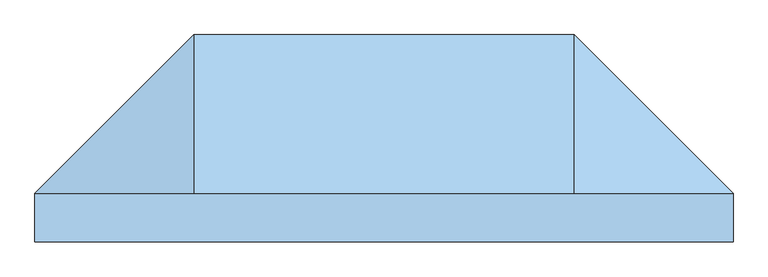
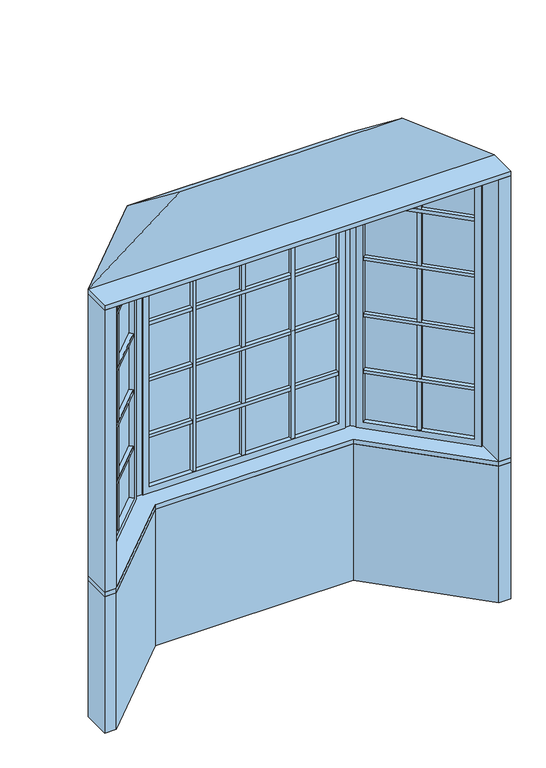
"""IFC4 building model written with IfcOpenShell, lengths in millimetres: window geometry, Pollard_Windows_Tudor Casement Bows and Bays : AML-BAY 45 AFR0516-12-600_GC."""

from ifc_helpers import new_model, si_unit, frame, origin, origin_with_axes, place, context, project, spatial, polyline, outline, extrude, faceted_brep, source, transform, mapped, element, save


def window_9950a577(model_context):
    return source(origin(), model_context, "Body", "SolidModel", [
        extrude(outline(polyline([(653.0114193, 506.9608753), (1030.6725202, 129.2997743), (1015.116171, 113.7434252), (637.4550701, 491.4045261), (653.0114193, 506.9608753)])), frame((0.0, 0.0, 1110.998), z_axis=(0.0, 0.0, 1.0), x_axis=(1.0, 0.0, 0.0)), (0.0, 0.0, 1.0), 18.0),
        extrude(outline(polyline([(633.8629677, 487.8124236), (1011.5240686, 110.1513227), (995.9677194, 94.5949735), (618.3066185, 472.2560744), (633.8629677, 487.8124236)])), frame((0.0, 0.0, 1110.998), z_axis=(0.0, 0.0, 1.0), x_axis=(1.0, 0.0, 0.0)), (0.0, 0.0, 1.0), 18.0),
        extrude(outline(polyline([(653.0114193, 506.9608753), (1030.6725202, 129.2997743), (1015.116171, 113.7434252), (637.4550701, 491.4045261), (653.0114193, 506.9608753)])), frame((0.0, 0.0, 1430.998), z_axis=(0.0, 0.0, 1.0), x_axis=(1.0, 0.0, 0.0)), (0.0, 0.0, 1.0), 18.0),
        extrude(outline(polyline([(633.8629677, 487.8124236), (1011.5240686, 110.1513227), (995.9677194, 94.5949735), (618.3066185, 472.2560744), (633.8629677, 487.8124236)])), frame((0.0, 0.0, 1430.998), z_axis=(0.0, 0.0, 1.0), x_axis=(1.0, 0.0, 0.0)), (0.0, 0.0, 1.0), 18.0),
        extrude(outline(polyline([(653.0114193, 506.9608753), (1030.6725202, 129.2997743), (1015.116171, 113.7434252), (637.4550701, 491.4045261), (653.0114193, 506.9608753)])), frame((0.0, 0.0, 1750.998), z_axis=(0.0, 0.0, 1.0), x_axis=(1.0, 0.0, 0.0)), (0.0, 0.0, 1.0), 18.0),
        extrude(outline(polyline([(633.8629677, 487.8124236), (1011.5240686, 110.1513227), (995.9677194, 94.5949735), (618.3066185, 472.2560744), (633.8629677, 487.8124236)])), frame((0.0, 0.0, 1750.998), z_axis=(0.0, 0.0, 1.0), x_axis=(1.0, 0.0, 0.0)), (0.0, 0.0, 1.0), 18.0),
        extrude(outline(polyline([(653.0114193, 506.9608753), (1030.6725202, 129.2997743), (1015.116171, 113.7434252), (637.4550701, 491.4045261), (653.0114193, 506.9608753)])), frame((0.0, 0.0, 2070.998), z_axis=(0.0, 0.0, 1.0), x_axis=(1.0, 0.0, 0.0)), (0.0, 0.0, 1.0), 18.0),
        extrude(outline(polyline([(633.8629677, 487.8124236), (1011.5240686, 110.1513227), (995.9677194, 94.5949735), (618.3066185, 472.2560744), (633.8629677, 487.8124236)])), frame((0.0, 0.0, 2070.998), z_axis=(0.0, 0.0, 1.0), x_axis=(1.0, 0.0, 0.0)), (0.0, 0.0, 1.0), 18.0),
        extrude(outline(polyline([(832.6495816, 296.2100146), (819.9216595, 308.9379366), (835.4780087, 324.4942858), (848.2059308, 311.7663638), (832.6495816, 296.2100146)])), frame((0.0, 0.0, 835.8628), z_axis=(0.0, 0.0, 1.0), x_axis=(1.0, 0.0, 0.0)), (0.0, 0.0, 1.0), 1528.2704),
        extrude(outline(polyline([(829.0574791, 292.6179121), (813.50113, 277.0615629), (800.7732079, 289.789485), (816.3295571, 305.3458342), (829.0574791, 292.6179121)])), frame((0.0, 0.0, 835.8628), z_axis=(0.0, 0.0, 1.0), x_axis=(1.0, 0.0, 0.0)), (0.0, 0.0, 1.0), 1528.2704),
        extrude(outline(polyline([(1024.0964271, 104.763169), (1020.5043247, 101.1710666), (624.8827115, 496.7926797), (628.474814, 500.3847822), (1024.0964271, 104.763169)])), frame((0.0, 0.0, 823.1628), z_axis=(0.0, 0.0, 1.0), x_axis=(1.0, 0.0, 0.0)), (0.0, 0.0, 1.0), 1553.6704),
        faceted_brep([(1015.116171, 113.7434252, 835.8628), (1015.116171, 113.7434252, 2364.1332), (1033.0766833, 131.7039374, 2364.1332), (1033.0766833, 131.7039374, 835.8628), (1020.5043247, 101.1710666, 823.1628), (1020.5043247, 101.1710666, 2376.8332), (1024.0964271, 104.763169, 2376.8332), (1024.0964271, 104.763169, 823.1628), (993.5635563, 92.1908105, 835.8628), (993.5635563, 92.1908105, 2364.1332), (1011.5240686, 110.1513227, 2364.1332), (1011.5240686, 110.1513227, 835.8628), (1058.4369265, 106.3436941, 799.998), (1058.4369265, 106.3436941, 2399.998), (1018.9237996, 66.8305672, 2399.998), (1018.9237996, 66.8305672, 799.998), (637.4550701, 491.4045261, 2364.1332), (655.4155823, 509.3650383, 2364.1332), (624.8827115, 496.7926797, 2376.8332), (628.474814, 500.3847822, 2376.8332), (615.9024554, 469.8519114, 2364.1332), (633.8629677, 487.8124236, 2364.1332), (630.0553391, 534.7252816, 2399.998), (590.5422121, 495.2121547, 2399.998), (637.4550701, 491.4045261, 835.8628), (655.4155823, 509.3650383, 835.8628), (624.8827115, 496.7926797, 823.1628), (628.474814, 500.3847822, 823.1628), (615.9024554, 469.8519114, 835.8628), (633.8629677, 487.8124236, 835.8628), (630.0553391, 534.7252816, 799.998), (590.5422121, 495.2121547, 799.998)], [[[0, 1, 2, 3]], [[4, 5, 6, 7]], [[8, 9, 10, 11]], [[12, 13, 14, 15]], [[1, 16, 17, 2]], [[5, 18, 19, 6]], [[9, 20, 21, 10]], [[13, 22, 23, 14]], [[16, 24, 25, 17]], [[18, 26, 27, 19]], [[20, 28, 29, 21]], [[22, 30, 31, 23]], [[24, 0, 3, 25]], [[7, 6, 19, 27], [1, 0, 24, 16]], [[26, 4, 7, 27]], [[5, 4, 26, 18], [11, 10, 21, 29]], [[28, 8, 11, 29]], [[15, 14, 23, 31], [9, 8, 28, 20]], [[30, 12, 15, 31]], [[13, 12, 30, 22], [3, 2, 17, 25]]]),
        extrude(outline(polyline([(274.2677, 544.6806207), (256.2677, 544.6806207), (256.2677, 566.6806207), (274.2677, 566.6806207), (274.2677, 544.6806207)])), frame((0.0, 0.0, 835.8628), z_axis=(0.0, 0.0, 1.0), x_axis=(1.0, 0.0, 0.0)), (0.0, 0.0, 1.0), 1528.2704),
        extrude(outline(polyline([(274.2677, 539.6006207), (274.2677, 517.6006207), (256.2677, 517.6006207), (256.2677, 539.6006207), (274.2677, 539.6006207)])), frame((0.0, 0.0, 835.8628), z_axis=(0.0, 0.0, 1.0), x_axis=(1.0, 0.0, 0.0)), (0.0, 0.0, 1.0), 1528.2704),
        extrude(outline(polyline([(-256.2677, 544.6806207), (-274.2677, 544.6806207), (-274.2677, 566.6806207), (-256.2677, 566.6806207), (-256.2677, 544.6806207)])), frame((0.0, 0.0, 835.8628), z_axis=(0.0, 0.0, 1.0), x_axis=(1.0, 0.0, 0.0)), (0.0, 0.0, 1.0), 1528.2704),
        extrude(outline(polyline([(-256.2677, 539.6006207), (-256.2677, 517.6006207), (-274.2677, 517.6006207), (-274.2677, 539.6006207), (-256.2677, 539.6006207)])), frame((0.0, 0.0, 835.8628), z_axis=(0.0, 0.0, 1.0), x_axis=(1.0, 0.0, 0.0)), (0.0, 0.0, 1.0), 1528.2704),
        extrude(outline(polyline([(-508.8352, 566.6806207), (508.8352, 566.6806207), (508.8352, 544.6806207), (-508.8352, 544.6806207), (-508.8352, 566.6806207)])), frame((0.0, 0.0, 1110.998), z_axis=(0.0, 0.0, 1.0), x_axis=(1.0, 0.0, 0.0)), (0.0, 0.0, 1.0), 18.0),
        extrude(outline(polyline([(-508.8352, 539.6006207), (508.8352, 539.6006207), (508.8352, 517.6006207), (-508.8352, 517.6006207), (-508.8352, 539.6006207)])), frame((0.0, 0.0, 1110.998), z_axis=(0.0, 0.0, 1.0), x_axis=(1.0, 0.0, 0.0)), (0.0, 0.0, 1.0), 18.0),
        extrude(outline(polyline([(-508.8352, 566.6806207), (508.8352, 566.6806207), (508.8352, 544.6806207), (-508.8352, 544.6806207), (-508.8352, 566.6806207)])), frame((0.0, 0.0, 1430.998), z_axis=(0.0, 0.0, 1.0), x_axis=(1.0, 0.0, 0.0)), (0.0, 0.0, 1.0), 18.0),
        extrude(outline(polyline([(-508.8352, 539.6006207), (508.8352, 539.6006207), (508.8352, 517.6006207), (-508.8352, 517.6006207), (-508.8352, 539.6006207)])), frame((0.0, 0.0, 1430.998), z_axis=(0.0, 0.0, 1.0), x_axis=(1.0, 0.0, 0.0)), (0.0, 0.0, 1.0), 18.0),
        extrude(outline(polyline([(-508.8352, 566.6806207), (508.8352, 566.6806207), (508.8352, 544.6806207), (-508.8352, 544.6806207), (-508.8352, 566.6806207)])), frame((0.0, 0.0, 1750.998), z_axis=(0.0, 0.0, 1.0), x_axis=(1.0, 0.0, 0.0)), (0.0, 0.0, 1.0), 18.0),
        extrude(outline(polyline([(-508.8352, 539.6006207), (508.8352, 539.6006207), (508.8352, 517.6006207), (-508.8352, 517.6006207), (-508.8352, 539.6006207)])), frame((0.0, 0.0, 1750.998), z_axis=(0.0, 0.0, 1.0), x_axis=(1.0, 0.0, 0.0)), (0.0, 0.0, 1.0), 18.0),
        extrude(outline(polyline([(-1030.6725202, 129.2997743), (-653.0114193, 506.9608753), (-637.4550701, 491.4045261), (-1015.116171, 113.7434252), (-1030.6725202, 129.2997743)])), frame((0.0, 0.0, 1110.998), z_axis=(0.0, 0.0, 1.0), x_axis=(1.0, 0.0, 0.0)), (0.0, 0.0, 1.0), 18.0),
        extrude(outline(polyline([(-1011.5240686, 110.1513227), (-633.8629677, 487.8124236), (-618.3066185, 472.2560744), (-995.9677194, 94.5949735), (-1011.5240686, 110.1513227)])), frame((0.0, 0.0, 1110.998), z_axis=(0.0, 0.0, 1.0), x_axis=(1.0, 0.0, 0.0)), (0.0, 0.0, 1.0), 18.0),
        extrude(outline(polyline([(-1030.6725202, 129.2997743), (-653.0114193, 506.9608753), (-637.4550701, 491.4045261), (-1015.116171, 113.7434252), (-1030.6725202, 129.2997743)])), frame((0.0, 0.0, 1430.998), z_axis=(0.0, 0.0, 1.0), x_axis=(1.0, 0.0, 0.0)), (0.0, 0.0, 1.0), 18.0),
        extrude(outline(polyline([(-1011.5240686, 110.1513227), (-633.8629677, 487.8124236), (-618.3066185, 472.2560744), (-995.9677194, 94.5949735), (-1011.5240686, 110.1513227)])), frame((0.0, 0.0, 1430.998), z_axis=(0.0, 0.0, 1.0), x_axis=(1.0, 0.0, 0.0)), (0.0, 0.0, 1.0), 18.0),
        extrude(outline(polyline([(-1030.6725202, 129.2997743), (-653.0114193, 506.9608753), (-637.4550701, 491.4045261), (-1015.116171, 113.7434252), (-1030.6725202, 129.2997743)])), frame((0.0, 0.0, 1750.998), z_axis=(0.0, 0.0, 1.0), x_axis=(1.0, 0.0, 0.0)), (0.0, 0.0, 1.0), 18.0),
        extrude(outline(polyline([(-1011.5240686, 110.1513227), (-633.8629677, 487.8124236), (-618.3066185, 472.2560744), (-995.9677194, 94.5949735), (-1011.5240686, 110.1513227)])), frame((0.0, 0.0, 1750.998), z_axis=(0.0, 0.0, 1.0), x_axis=(1.0, 0.0, 0.0)), (0.0, 0.0, 1.0), 18.0),
        extrude(outline(polyline([(-1030.6725202, 129.2997743), (-653.0114193, 506.9608753), (-637.4550701, 491.4045261), (-1015.116171, 113.7434252), (-1030.6725202, 129.2997743)])), frame((0.0, 0.0, 2070.998), z_axis=(0.0, 0.0, 1.0), x_axis=(1.0, 0.0, 0.0)), (0.0, 0.0, 1.0), 18.0),
        extrude(outline(polyline([(-1011.5240686, 110.1513227), (-633.8629677, 487.8124236), (-618.3066185, 472.2560744), (-995.9677194, 94.5949735), (-1011.5240686, 110.1513227)])), frame((0.0, 0.0, 2070.998), z_axis=(0.0, 0.0, 1.0), x_axis=(1.0, 0.0, 0.0)), (0.0, 0.0, 1.0), 18.0),
        extrude(outline(polyline([(-508.8352, 566.6806207), (508.8352, 566.6806207), (508.8352, 544.6806207), (-508.8352, 544.6806207), (-508.8352, 566.6806207)])), frame((0.0, 0.0, 2070.998), z_axis=(0.0, 0.0, 1.0), x_axis=(1.0, 0.0, 0.0)), (0.0, 0.0, 1.0), 18.0),
        extrude(outline(polyline([(-508.8352, 539.6006207), (508.8352, 539.6006207), (508.8352, 517.6006207), (-508.8352, 517.6006207), (-508.8352, 539.6006207)])), frame((0.0, 0.0, 2070.998), z_axis=(0.0, 0.0, 1.0), x_axis=(1.0, 0.0, 0.0)), (0.0, 0.0, 1.0), 18.0),
        extrude(outline(polyline([(-819.9216595, 308.9379366), (-832.6495816, 296.2100146), (-848.2059308, 311.7663638), (-835.4780087, 324.4942858), (-819.9216595, 308.9379366)])), frame((0.0, 0.0, 835.8628), z_axis=(0.0, 0.0, 1.0), x_axis=(1.0, 0.0, 0.0)), (0.0, 0.0, 1.0), 1528.2704),
        extrude(outline(polyline([(-816.3295571, 305.3458342), (-800.7732079, 289.789485), (-813.50113, 277.0615629), (-829.0574791, 292.6179121), (-816.3295571, 305.3458342)])), frame((0.0, 0.0, 835.8628), z_axis=(0.0, 0.0, 1.0), x_axis=(1.0, 0.0, 0.0)), (0.0, 0.0, 1.0), 1528.2704),
        extrude(outline(polyline([(9.0, 544.6806207), (-9.0, 544.6806207), (-9.0, 566.6806207), (9.0, 566.6806207), (9.0, 544.6806207)])), frame((0.0, 0.0, 835.8628), z_axis=(0.0, 0.0, 1.0), x_axis=(1.0, 0.0, 0.0)), (0.0, 0.0, 1.0), 1528.2704),
        extrude(outline(polyline([(9.0, 539.6006207), (9.0, 517.6006207), (-9.0, 517.6006207), (-9.0, 539.6006207), (9.0, 539.6006207)])), frame((0.0, 0.0, 835.8628), z_axis=(0.0, 0.0, 1.0), x_axis=(1.0, 0.0, 0.0)), (0.0, 0.0, 1.0), 1528.2704),
        extrude(outline(polyline([(-628.474814, 500.3847822), (-624.8827115, 496.7926797), (-1020.5043247, 101.1710666), (-1024.0964271, 104.763169), (-628.474814, 500.3847822)])), frame((0.0, 0.0, 823.1628), z_axis=(0.0, 0.0, 1.0), x_axis=(1.0, 0.0, 0.0)), (0.0, 0.0, 1.0), 1553.6704),
        faceted_brep([(-633.8629677, 487.8124236, 2364.1332), (-633.8629677, 487.8124236, 835.8628), (-615.9024554, 469.8519114, 835.8628), (-615.9024554, 469.8519114, 2364.1332), (-628.474814, 500.3847822, 2376.8332), (-628.474814, 500.3847822, 823.1628), (-624.8827115, 496.7926797, 823.1628), (-624.8827115, 496.7926797, 2376.8332), (-655.4155823, 509.3650383, 2364.1332), (-655.4155823, 509.3650383, 835.8628), (-637.4550701, 491.4045261, 835.8628), (-637.4550701, 491.4045261, 2364.1332), (-590.5422121, 495.2121547, 2399.998), (-590.5422121, 495.2121547, 799.998), (-630.0553391, 534.7252816, 799.998), (-630.0553391, 534.7252816, 2399.998), (-1011.5240686, 110.1513227, 835.8628), (-993.5635563, 92.1908105, 835.8628), (-1024.0964271, 104.763169, 823.1628), (-1020.5043247, 101.1710666, 823.1628), (-1033.0766833, 131.7039374, 835.8628), (-1015.116171, 113.7434252, 835.8628), (-1018.9237996, 66.8305672, 799.998), (-1058.4369265, 106.3436941, 799.998), (-1011.5240686, 110.1513227, 2364.1332), (-993.5635563, 92.1908105, 2364.1332), (-1024.0964271, 104.763169, 2376.8332), (-1020.5043247, 101.1710666, 2376.8332), (-1033.0766833, 131.7039374, 2364.1332), (-1015.116171, 113.7434252, 2364.1332), (-1018.9237996, 66.8305672, 2399.998), (-1058.4369265, 106.3436941, 2399.998)], [[[0, 1, 2, 3]], [[4, 5, 6, 7]], [[8, 9, 10, 11]], [[12, 13, 14, 15]], [[1, 16, 17, 2]], [[5, 18, 19, 6]], [[9, 20, 21, 10]], [[13, 22, 23, 14]], [[16, 24, 25, 17]], [[18, 26, 27, 19]], [[20, 28, 29, 21]], [[22, 30, 31, 23]], [[13, 12, 30, 22], [3, 2, 17, 25]], [[24, 0, 3, 25]], [[7, 6, 19, 27], [1, 0, 24, 16]], [[26, 4, 7, 27]], [[5, 4, 26, 18], [11, 10, 21, 29]], [[28, 8, 11, 29]], [[15, 14, 23, 31], [9, 8, 28, 20]], [[30, 12, 15, 31]]]),
        extrude(outline(polyline([(521.5352, 544.6806207), (521.5352, 539.6006207), (-521.5352, 539.6006207), (-521.5352, 544.6806207), (521.5352, 544.6806207)])), frame((0.0, 0.0, 823.1628), z_axis=(0.0, 0.0, 1.0), x_axis=(1.0, 0.0, 0.0)), (0.0, 0.0, 1.0), 1553.6704),
        faceted_brep([(508.8352, 544.6806207, 835.8628), (508.8352, 544.6806207, 2364.1332), (508.8352, 570.0806207, 2364.1332), (508.8352, 570.0806207, 835.8628), (521.5352, 539.6006207, 823.1628), (521.5352, 539.6006207, 2376.8332), (521.5352, 544.6806207, 2376.8332), (521.5352, 544.6806207, 823.1628), (508.8352, 514.2006207, 835.8628), (508.8352, 514.2006207, 2364.1332), (508.8352, 539.6006207, 2364.1332), (508.8352, 539.6006207, 835.8628), (544.7, 570.0806207, 799.998), (544.7, 570.0806207, 2399.998), (544.7, 514.2006207, 2399.998), (544.7, 514.2006207, 799.998), (-508.8352, 544.6806207, 2364.1332), (-508.8352, 570.0806207, 2364.1332), (-521.5352, 539.6006207, 2376.8332), (-521.5352, 544.6806207, 2376.8332), (-508.8352, 514.2006207, 2364.1332), (-508.8352, 539.6006207, 2364.1332), (-544.7, 570.0806207, 2399.998), (-544.7, 514.2006207, 2399.998), (-508.8352, 544.6806207, 835.8628), (-508.8352, 570.0806207, 835.8628), (-521.5352, 539.6006207, 823.1628), (-521.5352, 544.6806207, 823.1628), (-508.8352, 514.2006207, 835.8628), (-508.8352, 539.6006207, 835.8628), (-544.7, 570.0806207, 799.998), (-544.7, 514.2006207, 799.998)], [[[0, 1, 2, 3]], [[4, 5, 6, 7]], [[8, 9, 10, 11]], [[12, 13, 14, 15]], [[1, 16, 17, 2]], [[5, 18, 19, 6]], [[9, 20, 21, 10]], [[13, 22, 23, 14]], [[16, 24, 25, 17]], [[18, 26, 27, 19]], [[20, 28, 29, 21]], [[22, 30, 31, 23]], [[13, 12, 30, 22], [3, 2, 17, 25]], [[24, 0, 3, 25]], [[7, 6, 19, 27], [1, 0, 24, 16]], [[26, 4, 7, 27]], [[5, 4, 26, 18], [11, 10, 21, 29]], [[28, 8, 11, 29]], [[15, 14, 23, 31], [9, 8, 28, 20]], [[30, 12, 15, 31]]]),
        faceted_brep([(1090.0, 74.7806207, 2425.398), (-1090.0, 74.7806207, 2425.398), (-594.7, 570.0806207, 2425.398), (594.7, 570.0806207, 2425.398), (-594.7, 74.7806207, 2806.398), (594.7, 74.7806207, 2806.398)], [[[0, 1, 2, 3]], [[1, 4, 2]], [[2, 4, 5, 3]], [[3, 5, 0]], [[0, 5, 4, 1]]]),
        extrude(outline(polyline([(-1090.0, -77.6193793), (-1090.0, 74.7806207), (-594.7, 570.0806207), (594.7, 570.0806207), (1090.0, 74.7806207), (1090.0, -77.6193793), (-1090.0, -77.6193793)])), frame((0.0, 0.0, 2399.998), z_axis=(0.0, 0.0, 1.0), x_axis=(1.0, 0.0, 0.0)), (0.0, 0.0, 1.0), 25.4),
        extrude(outline(polyline([(-1090.0, 74.7806207), (-1058.4369265, 106.3436941), (-1026.8738531, 74.7806207), (-1026.8738531, -77.6193793), (-1090.0, -77.6193793), (-1090.0, 74.7806207)])), frame((0.0, 0.0, 799.998), z_axis=(0.0, 0.0, 1.0), x_axis=(1.0, 0.0, 0.0)), (0.0, 0.0, 1.0), 1600.0),
        extrude(outline(polyline([(1090.0, -77.6193793), (1026.8738531, -77.6193793), (1026.8738531, 74.7806207), (1058.4369265, 106.3436941), (1090.0, 74.7806207), (1090.0, -77.6193793)])), frame((0.0, 0.0, 799.998), z_axis=(0.0, 0.0, 1.0), x_axis=(1.0, 0.0, 0.0)), (0.0, 0.0, 1.0), 1600.0),
        extrude(outline(polyline([(594.7, 570.0806207), (630.0553391, 534.7252816), (594.7, 499.3699425), (573.9893219, 520.0806207), (544.7, 520.0806207), (544.7, 570.0806207), (594.7, 570.0806207)])), frame((0.0, 0.0, 799.998), z_axis=(0.0, 0.0, 1.0), x_axis=(1.0, 0.0, 0.0)), (0.0, 0.0, 1.0), 1600.0),
        extrude(outline(polyline([(-594.7, 570.0806207), (-544.7, 570.0806207), (-544.7, 520.0806207), (-573.9893219, 520.0806207), (-594.7, 499.3699425), (-630.0553391, 534.7252816), (-594.7, 570.0806207)])), frame((0.0, 0.0, 799.998), z_axis=(0.0, 0.0, 1.0), x_axis=(1.0, 0.0, 0.0)), (0.0, 0.0, 1.0), 1600.0),
        extrude(outline(polyline([(-594.7, 570.0806207), (594.7, 570.0806207), (1090.0, 74.7806207), (1090.0, -77.6193793), (1026.8738531, -77.6193793), (531.5738531, 417.6806207), (-531.5738531, 417.6806207), (-1026.8738531, -77.6193793), (-1090.0, -77.6193793), (-1090.0, 74.7806207), (-594.7, 570.0806207)])), frame((0.0, 0.0, 774.598), z_axis=(0.0, 0.0, 1.0), x_axis=(1.0, 0.0, 0.0)), (0.0, 0.0, 1.0), 25.4),
        extrude(outline(polyline([(-1090.0, 74.7806207), (-594.7, 570.0806207), (594.7, 570.0806207), (1090.0, 74.7806207), (1090.0, -77.6193793), (1026.8738531, -77.6193793), (531.5738531, 417.6806207), (-531.5738531, 417.6806207), (-1026.8738531, -77.6193793), (-1090.0, -77.6193793), (-1090.0, 74.7806207)])), origin_with_axes(), (0.0, 0.0, 1.0), 774.598),
    ])


if __name__ == "__main__":
    model = new_model("IFC4")
    model_context = context("Model", 3, world=origin())
    ifc_project = project(units=[si_unit("LENGTHUNIT", "METRE", prefix="MILLI")], contexts=[model_context])
    site = spatial("IfcSite", under=ifc_project)
    building = spatial("IfcBuilding", under=site)
    placement = place(None, origin())
    window_shape = window_9950a577(model_context)
    element("IfcWindow", 1, ObjectType="Pollard_Windows_Tudor Casement Bows and Bays : AML-BAY 45 AFR0516-12-600_GC", at=placement, inside=building, context=model_context, shape_type="MappedRepresentation", body=[
        mapped(window_shape, transform((0.0, 0.0, 0.0), x_axis=(1.0, 0.0, 0.0), y_axis=(0.0, 1.0, 0.0), z_axis=(0.0, 0.0, 1.0))),
    ])
    save(model, "model.ifc")
